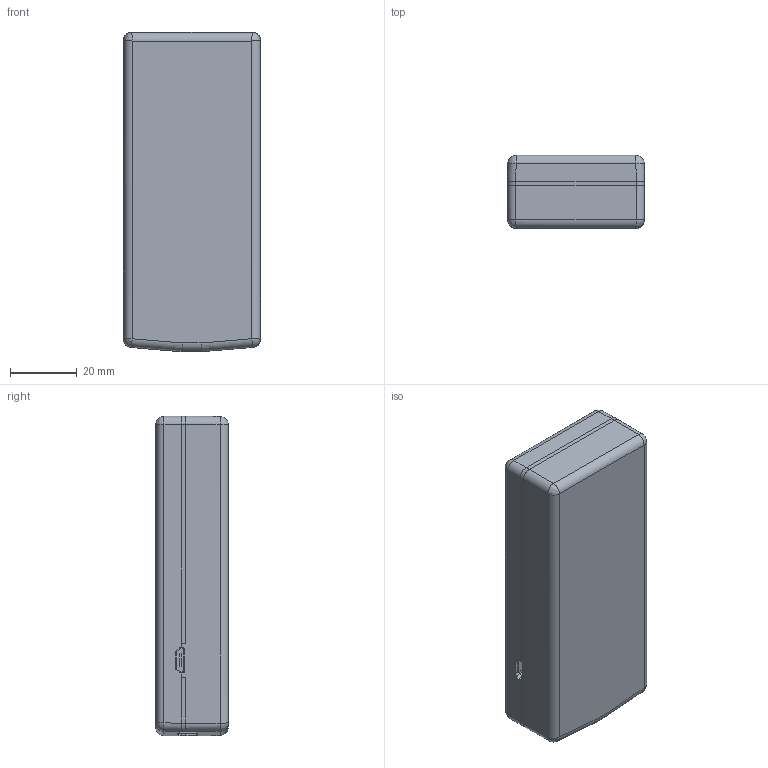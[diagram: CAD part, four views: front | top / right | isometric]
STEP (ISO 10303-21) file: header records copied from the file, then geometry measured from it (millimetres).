
FILE_DESCRIPTION (( 'STEP AP203' ), '1' );
FILE_NAME ('Case149Top.STEP', '2015-02-03T18:37:39', ( '' ), ( '' ), 'SwSTEP 2.0', 'SolidWorks 2014', '' );
FILE_SCHEMA (( 'CONFIG_CONTROL_DESIGN' ));
Length unit declared in the file: inch
Products named in the file (1): Case149Top
Bounding box: 40.98 x 21.77 x 95.45 mm (x, y, z)
Volume: 57274.2 mm3; surface area: 38870.7 mm2
Topology: 5 solids, 5 shells, 458 faces, 1200 edges, 758 vertices
Faces by surface type: plane 306, cylinder 110, bspline 13, cone 12, torus 9, sphere 8
Entity records: 14881 total; most frequent: CARTESIAN_POINT 3671, ORIENTED_EDGE 2376, DIRECTION 2194, EDGE_CURVE 1188, VECTOR 910, LINE 910, VERTEX_POINT 758, AXIS2_PLACEMENT_3D 642
